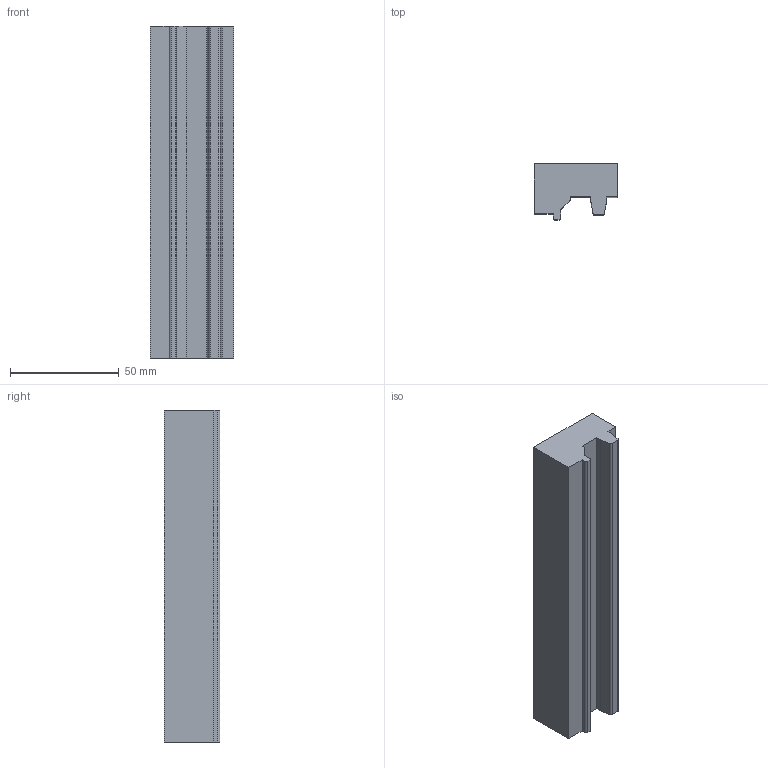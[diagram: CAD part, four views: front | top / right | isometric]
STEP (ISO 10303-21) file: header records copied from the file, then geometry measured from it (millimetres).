
FILE_DESCRIPTION(/* description */ (''),/* implementation_level */ '2;1');
FILE_NAME(/* name */ 'mp5-wing.step',/* time_stamp */ '2026-08-13T21:54:02-07:00',/* author */ (''),/* organization */ (''),/* preprocessor_version */ 'ST-DEVELOPER v20.1',/* originating_system */ 'Autodesk Translation Framework v15.8.0.0',/* authorisation */ '');
FILE_SCHEMA (('AUTOMOTIVE_DESIGN { 1 0 10303 214 3 1 1 }'));
Length unit declared in the file: inch
Products named in the file (2): HK_Mandrel; Mp5 Version
Assembly tree (1 placements, depth 2):
  HK_Mandrel
    Mp5 Version
Bounding box: 38.1 x 25.68 x 152.4 mm (x, y, z)
Volume: 114034.2 mm3; surface area: 22575.7 mm2
Topology: 1 solids, 1 shells, 22 faces, 60 edges, 40 vertices
Faces by surface type: plane 18, cylinder 4
Entity records: 747 total; most frequent: CARTESIAN_POINT 125, ORIENTED_EDGE 120, DIRECTION 118, EDGE_CURVE 60, LINE 52, VECTOR 52, VERTEX_POINT 40, AXIS2_PLACEMENT_3D 33
